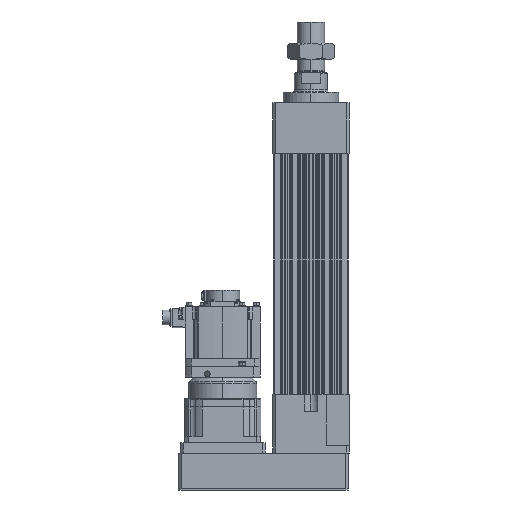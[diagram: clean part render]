
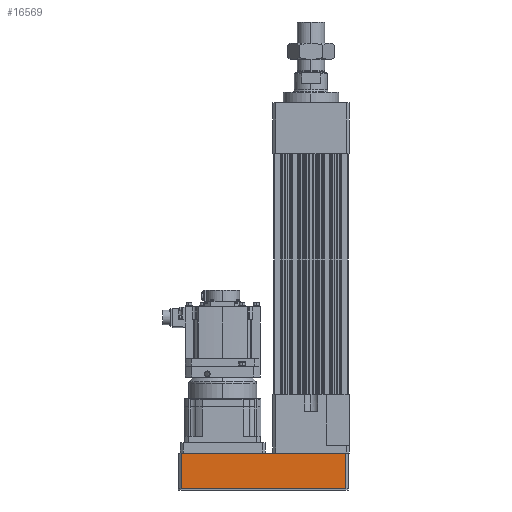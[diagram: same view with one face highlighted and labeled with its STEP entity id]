
A CAD part, left-side view. The second image highlights one B-rep face of the part: STEP entity #16569.
In plain terms, the highlighted planar face has unit normal (-1, 0, 0).
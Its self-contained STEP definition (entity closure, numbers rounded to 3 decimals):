
#540 = LINE ( 'NONE', #704, #49179 ) ;
#704 = CARTESIAN_POINT ( 'NONE',  ( -88., -82., -221.5 ) ) ;
#6339 = CARTESIAN_POINT ( 'NONE',  ( -88., -82., -222. ) ) ;
#6510 = DIRECTION ( 'NONE',  ( 0., 0., 1. ) ) ;
#7376 = CARTESIAN_POINT ( 'NONE',  ( -88., 306., -222. ) ) ;
#10354 = CARTESIAN_POINT ( 'NONE',  ( -88., 306., -221.5 ) ) ;
#11148 = VECTOR ( 'NONE', #41446, 1000. ) ;
#11962 = VECTOR ( 'NONE', #6510, 1000. ) ;
#12655 = LINE ( 'NONE', #6339, #11962 ) ;
#13104 = ORIENTED_EDGE ( 'NONE', *, *, #28054, .F. ) ;
#14185 = EDGE_CURVE ( 'NONE', #20004, #27071, #540, .T. ) ;
#16518 = EDGE_CURVE ( 'NONE', #27071, #35434, #12655, .T. ) ;
#16569 = ADVANCED_FACE ( 'NONE', ( #34656 ), #39264, .F. ) ;
#16803 = AXIS2_PLACEMENT_3D ( 'NONE', #23348, #35485, #23180 ) ;
#20004 = VERTEX_POINT ( 'NONE', #10354 ) ;
#20674 = CARTESIAN_POINT ( 'NONE',  ( -88., -82., -138.5 ) ) ;
#21263 = LINE ( 'NONE', #7376, #49771 ) ;
#23180 = DIRECTION ( 'NONE',  ( 0., 0., -1. ) ) ;
#23348 = CARTESIAN_POINT ( 'NONE',  ( -88., -82., -222. ) ) ;
#23673 = DIRECTION ( 'NONE',  ( 0., 0., 1. ) ) ;
#27071 = VERTEX_POINT ( 'NONE', #52479 ) ;
#27857 = CARTESIAN_POINT ( 'NONE',  ( -88., 306., -138.5 ) ) ;
#28054 = EDGE_CURVE ( 'NONE', #20004, #42702, #21263, .T. ) ;
#32309 = EDGE_CURVE ( 'NONE', #35434, #42702, #33159, .T. ) ;
#33159 = LINE ( 'NONE', #33472, #11148 ) ;
#33472 = CARTESIAN_POINT ( 'NONE',  ( -88., -82., -138.5 ) ) ;
#34656 = FACE_OUTER_BOUND ( 'NONE', #42980, .T. ) ;
#35434 = VERTEX_POINT ( 'NONE', #20674 ) ;
#35485 = DIRECTION ( 'NONE',  ( 1., 0., 0. ) ) ;
#38004 = DIRECTION ( 'NONE',  ( 0., -1., 0. ) ) ;
#39264 = PLANE ( 'NONE',  #16803 ) ;
#41446 = DIRECTION ( 'NONE',  ( 0., 1., 0. ) ) ;
#42702 = VERTEX_POINT ( 'NONE', #27857 ) ;
#42980 = EDGE_LOOP ( 'NONE', ( #13104, #52847, #46225, #51198 ) ) ;
#46225 = ORIENTED_EDGE ( 'NONE', *, *, #16518, .T. ) ;
#49179 = VECTOR ( 'NONE', #38004, 1000. ) ;
#49771 = VECTOR ( 'NONE', #23673, 1000. ) ;
#51198 = ORIENTED_EDGE ( 'NONE', *, *, #32309, .T. ) ;
#52479 = CARTESIAN_POINT ( 'NONE',  ( -88., -82., -221.5 ) ) ;
#52847 = ORIENTED_EDGE ( 'NONE', *, *, #14185, .T. ) ;
